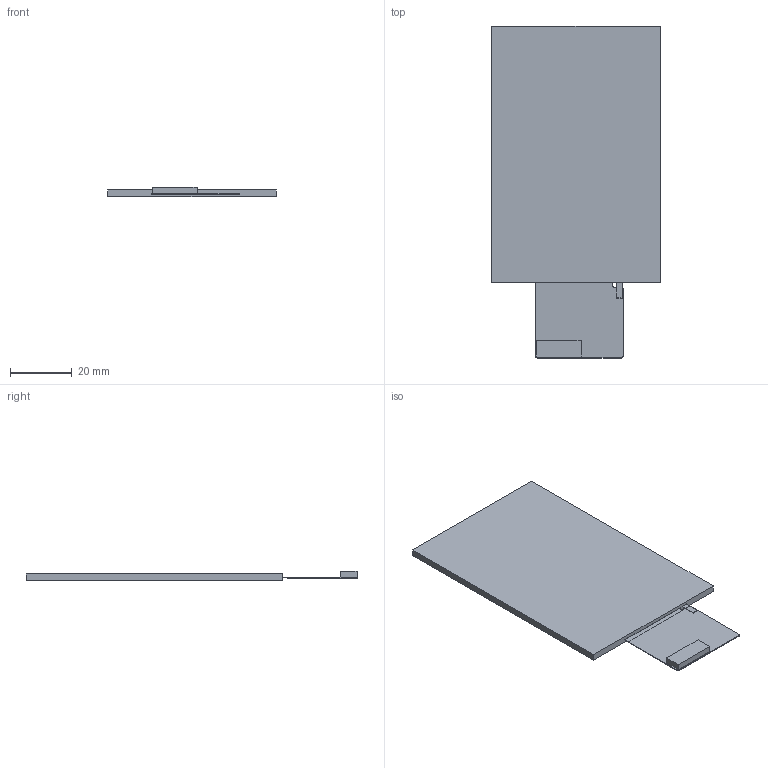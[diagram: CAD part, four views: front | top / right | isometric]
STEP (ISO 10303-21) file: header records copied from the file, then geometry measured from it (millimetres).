
FILE_DESCRIPTION((''),'2;1');
FILE_NAME('DMG48320F035_05WN-250728','2009-01-01T',('Administrator'),(''),'PRO/ENGINEER BY PARAMETRIC TECHNOLOGY CORPORATION, 2008380','PRO/ENGINEER BY PARAMETRIC TECHNOLOGY CORPORATION, 2008380','');
FILE_SCHEMA(('CONFIG_CONTROL_DESIGN'));
Length unit declared in the file: millimetre
Products named in the file (1): DMG48320F035_05WN-250728
Bounding box: 54.5 x 107.44 x 3.03 mm (x, y, z)
Volume: 10305.3 mm3; surface area: 11137.2 mm2
Topology: 1 solids, 1 shells, 33 faces, 4604 edges, 7780 vertices
Faces by surface type: plane 26, cylinder 7
Entity records: 38703 total; most frequent: DIRECTION 5970, CARTESIAN_POINT 4696, PRESENTATION_STYLE_ASSIGNMENT 4540, STYLED_ITEM 4540, CURVE_STYLE 4526, TRIMMED_CURVE 4516, VECTOR 3306, LINE 3306
